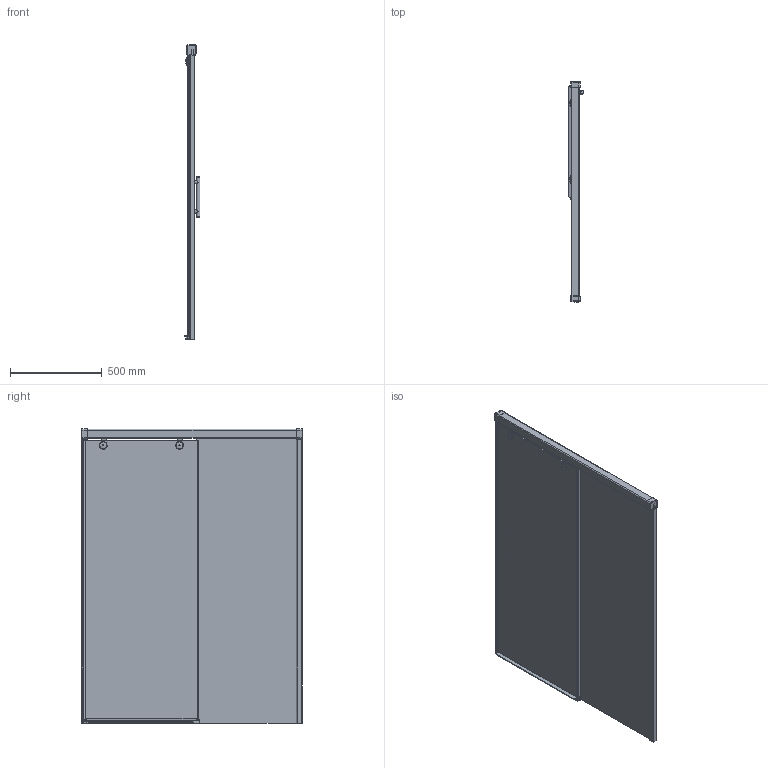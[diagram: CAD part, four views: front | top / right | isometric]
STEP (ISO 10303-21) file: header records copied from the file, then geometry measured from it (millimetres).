
FILE_DESCRIPTION(/* description */ (''),/* implementation_level */ '2;1');
FILE_NAME(/* name */ 'E:\Работа\Сергей\Душевые кабинки\! Работа\12\SLIDE PART GV-862\SLIDE PART GV-862 левая модель\SLIDE PART GV-862 ЛЕВАЯ-3D.stp',/* time_stamp */ '2018-01-15T21:01:47+03:00',/* author */ ('PC'),/* organization */ (''),/* preprocessor_version */ 'ST-DEVELOPER v15.2',/* originating_system */ 'Autodesk Inventor 2014',/* authorisation */ '');
FILE_SCHEMA (('AUTOMOTIVE_DESIGN { 1 0 10303 214 3 1 1 }'));
Length unit declared in the file: millimetre
Products named in the file (1): SLIDE PART GV-862 ЛЕВАЯ-3D
Bounding box: 87 x 1200 x 1601.5 mm (x, y, z)
Volume: 18209666.2 mm3; surface area: 4542732.7 mm2
Topology: 2 solids, 4 shells, 637 faces, 1738 edges, 1101 vertices
Faces by surface type: plane 392, cylinder 199, torus 36, bspline 10
Full cylindrical faces by diameter (mm): 20 x3, 37 x4, 42 x4
Entity records: 21017 total; most frequent: CARTESIAN_POINT 4144, ORIENTED_EDGE 3420, DIRECTION 3355, EDGE_CURVE 1709, LINE 1189, VECTOR 1189, VERTEX_POINT 1093, AXIS2_PLACEMENT_3D 1083
